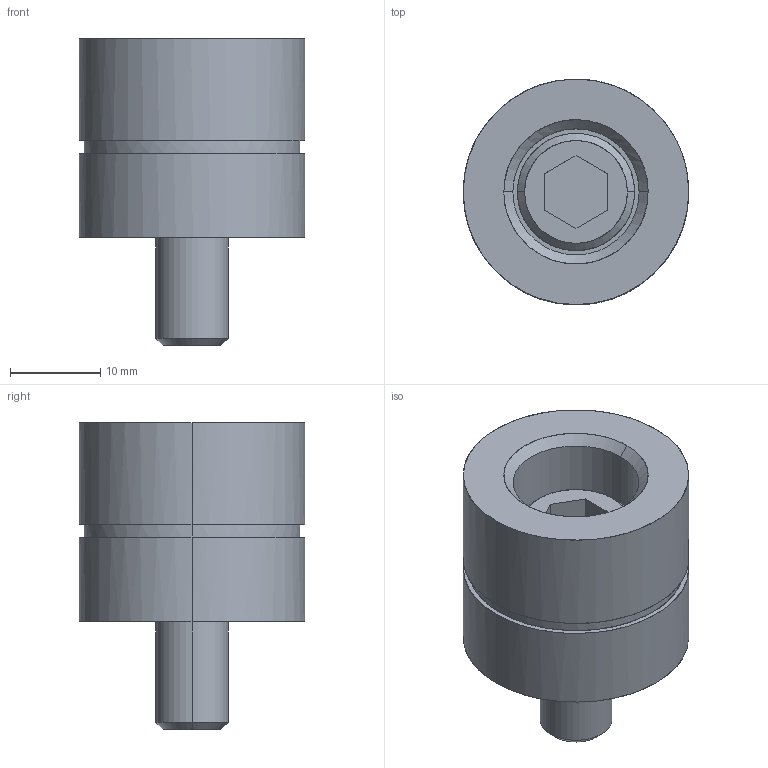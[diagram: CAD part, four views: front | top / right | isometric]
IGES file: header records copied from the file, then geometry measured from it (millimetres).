
Global section: file name: E:\UnigraphicsGraphicData\MISUMI_PRESS-PARTS\IGES\3d_sbn25-22-y_00580_r00.igs; native system: NX V5.0; preprocessor: UGS NX IGES V5.0; author: MISUMI; date: 20110105.162427; units: millimetre
Bounding box: 25 x 25 x 34 mm (x, y, z)
Surface area: 4642.6 mm2 (no closed solid volume)
Topology: 0 solids, 0 shells, 35 faces, 228 edges, 228 vertices
Faces by surface type: bspline 35
